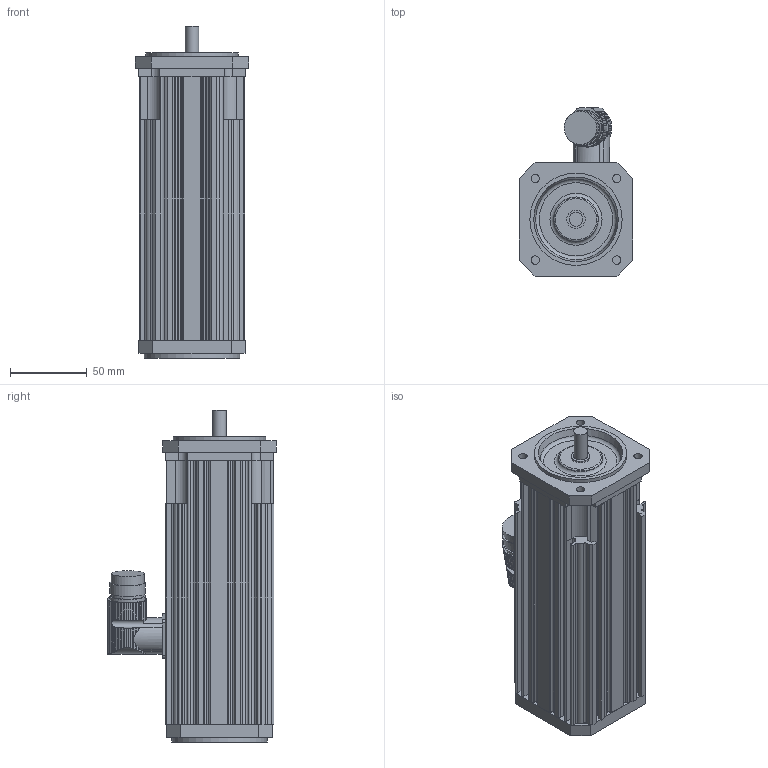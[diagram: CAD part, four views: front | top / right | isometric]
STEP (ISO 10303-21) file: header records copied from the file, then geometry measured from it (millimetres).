
FILE_DESCRIPTION(/* description */ (''),/* implementation_level */ '2;1');
FILE_NAME(/* name */ 'KSA246_MC',/* time_stamp */ '2009-02-26T12:57:48+01:00',/* author */ (''),/* organization */ (''),/* preprocessor_version */ 'ST-DEVELOPER v8',/* originating_system */ 'UNIGRAPHICS SOLUTIONS - UNIGRAPHICS 18.0',/* authorisation */ '');
FILE_SCHEMA (('AUTOMOTIVE_DESIGN { 1 2 10303 214 0 1 1 1 }'));
Length unit declared in the file: millimetre
Products named in the file (4): Lagersch2AS_0; Winkelflanschdose_0; Lagersch2BS_0; KSA244_MC_0
Assembly tree (3 placements, depth 2):
  KSA244_MC_0
    Lagersch2BS_0
    Winkelflanschdose_0
    Lagersch2AS_0
Bounding box: 74 x 109.69 x 216 mm (x, y, z)
Volume: 357066.8 mm3; surface area: 140074.3 mm2
Topology: 4 solids, 4 shells, 474 faces, 1316 edges, 852 vertices
Faces by surface type: cylinder 257, plane 164, torus 16, bspline 16, sphere 16, cone 5
Full cylindrical faces by diameter (mm): 5.5 x4, 9 x1, 12 x1, 16 x1, 20 x1, 21 x1, 21.5 x1, 23 x2, 60 x2, 61 x2, 62 x1
Entity records: 16096 total; most frequent: CARTESIAN_POINT 3733, ORIENTED_EDGE 2530, DIRECTION 2476, EDGE_CURVE 1265, AXIS2_PLACEMENT_3D 933, VERTEX_POINT 842, LINE 610, VECTOR 610
